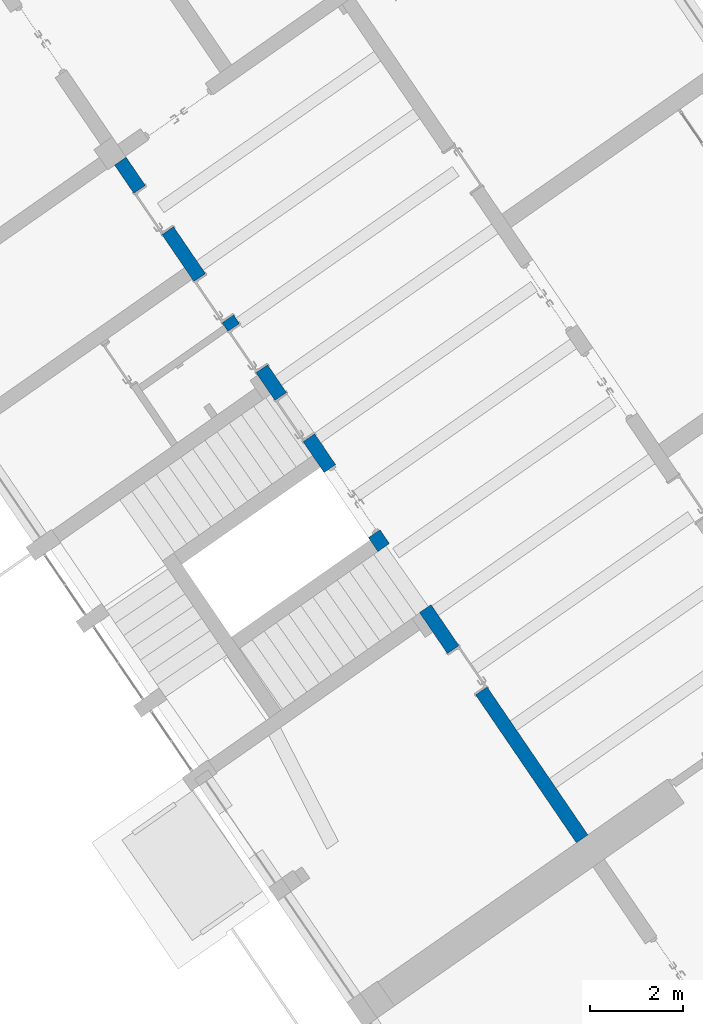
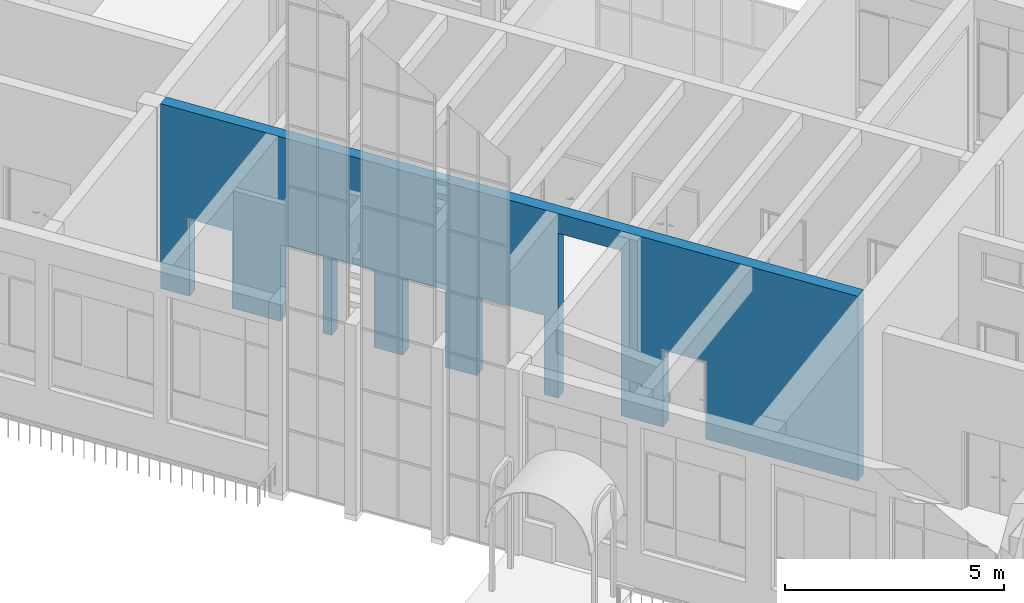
# One storey, part 123 of 157: 1 wall, 6 openings.
"""IFC2X3 building model written with IfcOpenShell, lengths in millimetres."""

from ifc_helpers import new_model, entity, si_unit, converted_unit, derived_unit, direction, frame, frame_2d, origin, place, context, subcontext, project, spatial, rectangle, extrude, faceted_brep, material, layer, layer_set, type_object, element, save


model = new_model("IFC2X3")

# Units and contexts
model_context = context("Model", 3, precision=0.01, world=origin(), true_north=direction((6.123031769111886e-17, 1.0)))
body_context = subcontext(model_context, "Body", "Model", "MODEL_VIEW")
ifc_project = project(units=[si_unit("LENGTHUNIT", "METRE", prefix="MILLI"), si_unit("AREAUNIT", "SQUARE_METRE"), si_unit("VOLUMEUNIT", "CUBIC_METRE"), converted_unit("PLANEANGLEUNIT", "DEGREE", entity("IfcRatioMeasure", 0.017453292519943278), si_unit("PLANEANGLEUNIT", "RADIAN"), dimensions=[0, 0, 0, 0, 0, 0, 0]), si_unit("MASSUNIT", "GRAM", prefix="KILO"), derived_unit("MASSDENSITYUNIT", [(si_unit("MASSUNIT", "GRAM", prefix="KILO"), 1), (si_unit("LENGTHUNIT", "METRE"), -3)]), derived_unit("MOMENTOFINERTIAUNIT", [(si_unit("LENGTHUNIT", "METRE"), 4)]), si_unit("TIMEUNIT", "SECOND"), si_unit("FREQUENCYUNIT", "HERTZ"), si_unit("THERMODYNAMICTEMPERATUREUNIT", "DEGREE_CELSIUS"), derived_unit("THERMALTRANSMITTANCEUNIT", [(si_unit("MASSUNIT", "GRAM", prefix="KILO"), 1), (si_unit("THERMODYNAMICTEMPERATUREUNIT", "KELVIN"), -1), (si_unit("TIMEUNIT", "SECOND"), -3)]), derived_unit("THERMALCONDUCTANCEUNIT", [(si_unit("MASSUNIT", "GRAM", prefix="KILO"), 1), (si_unit("LENGTHUNIT", "METRE"), 1), (si_unit("THERMODYNAMICTEMPERATUREUNIT", "KELVIN"), -1), (si_unit("TIMEUNIT", "SECOND"), -3)]), derived_unit("VOLUMETRICFLOWRATEUNIT", [(si_unit("LENGTHUNIT", "METRE"), 3), (si_unit("TIMEUNIT", "SECOND"), -1)]), derived_unit("MASSFLOWRATEUNIT", [(si_unit("MASSUNIT", "GRAM", prefix="KILO"), 1), (si_unit("TIMEUNIT", "SECOND"), -1)]), derived_unit("ROTATIONALFREQUENCYUNIT", [(si_unit("TIMEUNIT", "SECOND"), -1)]), si_unit("ELECTRICCURRENTUNIT", "AMPERE"), si_unit("ELECTRICVOLTAGEUNIT", "VOLT"), si_unit("POWERUNIT", "WATT"), converted_unit("FORCEUNIT", "KIP", entity("IfcRatioMeasure", 2.088543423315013e-05), si_unit("FORCEUNIT", "NEWTON"), dimensions=[1, 1, -2, 0, 0, 0, 0]), si_unit("ILLUMINANCEUNIT", "LUX"), si_unit("LUMINOUSFLUXUNIT", "LUMEN"), si_unit("LUMINOUSINTENSITYUNIT", "CANDELA"), derived_unit("USERDEFINED", [(si_unit("MASSUNIT", "GRAM", prefix="KILO"), -1), (si_unit("LENGTHUNIT", "METRE"), -2), (si_unit("TIMEUNIT", "SECOND"), 3), (si_unit("LUMINOUSFLUXUNIT", "LUMEN"), 1)]), derived_unit("USERDEFINED", [(si_unit("MASSUNIT", "GRAM", prefix="KILO"), 1), (si_unit("LENGTHUNIT", "METRE"), 3), (si_unit("TIMEUNIT", "SECOND"), -3), (si_unit("ELECTRICCURRENTUNIT", "AMPERE"), -2)]), derived_unit("USERDEFINED", [(si_unit("LENGTHUNIT", "METRE"), 2), (si_unit("TIMEUNIT", "SECOND"), -2)]), derived_unit("SOUNDPOWERUNIT", [(si_unit("MASSUNIT", "GRAM", prefix="KILO"), 1), (si_unit("LENGTHUNIT", "METRE"), 2), (si_unit("TIMEUNIT", "SECOND"), -3)]), derived_unit("SOUNDPRESSUREUNIT", [(si_unit("MASSUNIT", "GRAM", prefix="KILO"), 1), (si_unit("LENGTHUNIT", "METRE"), -1), (si_unit("TIMEUNIT", "SECOND"), -2)]), derived_unit("LINEARVELOCITYUNIT", [(si_unit("LENGTHUNIT", "METRE"), 1), (si_unit("TIMEUNIT", "SECOND"), -1)]), si_unit("PRESSUREUNIT", "PASCAL"), derived_unit("USERDEFINED", [(si_unit("LENGTHUNIT", "METRE"), -2), (si_unit("MASSUNIT", "GRAM", prefix="KILO"), 1), (si_unit("TIMEUNIT", "SECOND"), -2)]), derived_unit("LINEARFORCEUNIT", [(si_unit("MASSUNIT", "GRAM", prefix="KILO"), 1), (si_unit("LENGTHUNIT", "METRE"), 1), (si_unit("TIMEUNIT", "SECOND"), -2), (si_unit("LENGTHUNIT", "METRE"), -1)]), derived_unit("PLANARFORCEUNIT", [(si_unit("MASSUNIT", "GRAM", prefix="KILO"), 1), (si_unit("LENGTHUNIT", "METRE"), 1), (si_unit("TIMEUNIT", "SECOND"), -2), (si_unit("LENGTHUNIT", "METRE"), -2)]), derived_unit("SPECIFICHEATCAPACITYUNIT", [(si_unit("LENGTHUNIT", "METRE"), 2), (si_unit("TIMEUNIT", "SECOND"), -2), (si_unit("THERMODYNAMICTEMPERATUREUNIT", "KELVIN"), -1)]), derived_unit("VAPORPERMEABILITYUNIT", [(si_unit("TIMEUNIT", "SECOND"), 1), (si_unit("LENGTHUNIT", "METRE"), -1)]), derived_unit("DYNAMICVISCOSITYUNIT", [(si_unit("MASSUNIT", "GRAM", prefix="KILO"), 1), (si_unit("LENGTHUNIT", "METRE"), -1), (si_unit("TIMEUNIT", "SECOND"), -1)]), derived_unit("THERMALEXPANSIONCOEFFICIENTUNIT", [(si_unit("THERMODYNAMICTEMPERATUREUNIT", "KELVIN"), -1)])], contexts=[model_context])

# Site, building, storey
site_placement = place(None, frame((0.0, 0.0, 0.0), z_axis=(0.0, 0.0, 1.0), x_axis=(0.8191520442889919, 0.5735764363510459, 0.0)))
site = spatial("IfcSite", under=ifc_project, at=site_placement, Name="Default", CompositionType="ELEMENT")
building_placement = place(site_placement, origin())
building = spatial("IfcBuilding", under=site, at=building_placement, CompositionType="ELEMENT")
storey_placement = place(building_placement, origin())
storey = spatial("IfcBuildingStorey", under=building, at=storey_placement, Name="1.EG +0.00", CompositionType="ELEMENT", Elevation=-4.331468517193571e-12)

# Wall, openings
ifc_material = material(Name="Analytical Wall Surface_CJC")
ifc_layer = layer(ifc_material, 300.0)
ifc_layer_set = layer_set([ifc_layer], Name="Basic Wall:Wand_Innen_30")
wall_type = type_object("IfcWallType", Name="Basic Wall:Wand_Innen_30", PredefinedType="STANDARD", material=ifc_layer_set)
wall_placement = place(storey_placement, frame((-217073.2566968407, 103849.44947620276, 0.0), z_axis=(0.0, 0.0, 1.0), x_axis=(0.01272958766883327, 0.9999189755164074, 0.0)))
wall = element("IfcWall", 1, at=wall_placement, inside=storey, type_object=wall_type, Name="Basic Wall:Wand_Innen_30", ObjectType="Basic Wall:Wand_Innen_30", context=body_context, shape_type="Brep", body=[
    faceted_brep([(3.81918574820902, -150.0, 5150.0), (3.81918574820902, -150.0, 0.0), (3858.0728575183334, -150.0, 0.0), (3858.0728575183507, -150.0, 2150.0), (4938.072857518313, -150.0, 2150.0), (4938.07285751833, -150.0, 0.0), (6004.905676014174, -150.0, 0.0), (6004.905676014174, -150.0, 4600.0), (7599.434616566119, -150.0, 4600.0), (7599.434616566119, -150.0, 0.0), (7958.072857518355, -150.0, 0.0), (7958.0728575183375, -150.0, 2200.0), (9658.07285751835, -150.0, 2200.0), (9658.07285751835, -150.0, 0.0), (10458.072857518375, -150.0, 0.0), (10458.072857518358, -150.0, 2150.0), (11538.072857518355, -150.0, 2150.0), (11538.072857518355, -150.0, 0.0), (12258.072857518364, -150.0, 0.0), (12258.072857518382, -150.0, 2150.0), (13338.072857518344, -150.0, 2150.0), (13338.072857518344, -150.0, 0.0), (13558.178197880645, -150.0, 0.0), (13558.178197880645, -150.0, 2150.0), (14638.178197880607, -150.0, 2150.0), (14638.178197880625, -150.0, 0.0), (15858.364569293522, -150.0, 0.0), (15858.364569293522, -150.0, 2150.0), (16938.364569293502, -150.0, 2150.0), (16938.36456929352, -150.0, 0.0), (17675.25100438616, -150.0, 0.0), (17675.25100438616, -150.0, 4500.0), (17675.25100438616, -150.0, 5150.0), (16475.032220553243, -150.0, 5150.0), (16225.011962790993, -150.0, 5150.0), (14974.910673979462, -150.0, 5150.0), (14724.890416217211, -150.0, 5150.0), (13474.789127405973, -150.0, 5150.0), (13224.768869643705, -150.0, 5150.0), (11974.789127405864, -150.0, 5150.0), (11724.768869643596, -150.0, 5150.0), (10474.66758083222, -150.0, 5150.0), (10224.64732306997, -150.0, 5150.0), (8974.546034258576, -150.0, 5150.0), (8724.525776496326, -150.0, 5150.0), (7474.4244876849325, -150.0, 5150.0), (7224.404229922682, -150.0, 5150.0), (5974.302941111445, -150.0, 5150.0), (5724.282683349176, -150.0, 5150.0), (4474.1813945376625, -150.0, 5150.0), (4224.161136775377, -150.0, 5150.0), (2974.059847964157, -150.0, 5150.0), (2724.0395902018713, -150.0, 5150.0), (1473.938301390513, -150.0, 5150.0), (1223.918043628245, -150.0, 5150.0), (0.0, 150.0, 0.0), (0.0, 150.0, 5150.0), (2670.216352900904, 150.0, 5150.0), (2970.240662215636, 150.0, 5150.0), (5495.445265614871, 150.0, 5150.0), (5995.485781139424, 150.0, 5150.0), (7595.615430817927, 150.0, 5150.0), (7895.639740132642, 150.0, 5150.0), (9795.793699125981, 150.0, 5150.0), (10095.818008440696, 150.0, 5150.0), (11695.947658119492, 150.0, 5150.0), (12195.988173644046, 150.0, 5150.0), (13346.081359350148, 150.0, 5150.0), (13496.093514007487, 150.0, 5150.0), (14696.19075126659, 150.0, 5150.0), (14996.215060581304, 150.0, 5150.0), (17671.43181863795, 150.0, 5150.0), (17671.43181863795, 150.0, 0.0), (16938.364569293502, 150.0, 0.0), (16938.36456929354, 150.0, 2150.0), (15858.364569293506, 150.0, 2150.0), (15858.364569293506, 150.0, 0.0), (14996.215060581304, 150.0, 0.0), (14696.19075126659, 150.0, 0.0), (14638.178197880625, 150.0, 0.0), (14638.178197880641, 150.0, 2150.0), (13558.178197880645, 150.0, 2150.0), (13558.178197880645, 150.0, 0.0), (13496.093514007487, 150.0, 0.0), (13346.081359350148, 150.0, 0.0), (13338.072857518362, 150.0, 0.0), (13338.072857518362, 150.0, 2150.0), (12258.072857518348, 150.0, 2150.0), (12258.072857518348, 150.0, 0.0), (12195.988173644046, 150.0, 0.0), (11695.947658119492, 150.0, 0.0), (11538.072857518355, 150.0, 0.0), (11538.072857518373, 150.0, 2150.0), (10458.072857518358, 150.0, 2150.0), (10458.07285751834, 150.0, 0.0), (10095.818008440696, 150.0, 0.0), (9795.793699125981, 150.0, 0.0), (9658.072857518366, 150.0, 0.0), (9658.0728575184, 150.0, 2200.0), (7958.072857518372, 150.0, 2200.0), (7958.072857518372, 150.0, 0.0), (7895.639740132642, 150.0, 0.0), (7595.615430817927, 150.0, 0.0), (7595.615430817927, 150.0, 4600.0), (6004.905676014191, 150.0, 4600.0), (6004.905676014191, 150.0, 0.0), (5995.485781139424, 150.0, 0.0), (5495.445265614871, 150.0, 0.0), (4938.07285751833, 150.0, 0.0), (4938.07285751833, 150.0, 2150.0), (3858.0728575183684, 150.0, 2150.0), (3858.0728575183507, 150.0, 0.0)], [[[0, 1, 2, 3, 4, 5, 6, 7, 8, 9, 10, 11, 12, 13, 14, 15, 16, 17, 18, 19, 20, 21, 22, 23, 24, 25, 26, 27, 28, 29, 30, 31, 32, 33, 34, 35, 36, 37, 38, 39, 40, 41, 42, 43, 44, 45, 46, 47, 48, 49, 50, 51, 52, 53, 54]], [[55, 56, 57, 58, 59, 60, 61, 62, 63, 64, 65, 66, 67, 68, 69, 70, 71, 72, 73, 74, 75, 76, 77, 78, 79, 80, 81, 82, 83, 84, 85, 86, 87, 88, 89, 90, 91, 92, 93, 94, 95, 96, 97, 98, 99, 100, 101, 102, 103, 104, 105, 106, 107, 108, 109, 110, 111]], [[1, 0, 56, 55]], [[32, 31, 30, 72, 71]], [[4, 109, 108, 5]], [[109, 4, 3, 110]], [[110, 3, 2, 111]], [[28, 74, 73, 29]], [[74, 28, 27, 75]], [[75, 27, 26, 76]], [[24, 80, 79, 25]], [[80, 24, 23, 81]], [[81, 23, 22, 82]], [[20, 86, 85, 21]], [[86, 20, 19, 87]], [[87, 19, 18, 88]], [[16, 92, 91, 17]], [[92, 16, 15, 93]], [[93, 15, 14, 94]], [[1, 55, 111, 2]], [[7, 6, 105, 104]], [[8, 7, 104, 103]], [[9, 102, 101, 100, 10]], [[0, 54, 53, 52, 51, 50, 49, 48, 47, 46, 45, 44, 43, 42, 41, 40, 39, 38, 37, 36, 35, 34, 33, 32, 71, 70, 69, 68, 67, 66, 65, 64, 63, 62, 61, 60, 59, 58, 57, 56]], [[9, 8, 103, 102]], [[99, 11, 10, 100]], [[11, 99, 98, 12]], [[12, 98, 97, 13]], [[94, 14, 13, 97, 96, 95]], [[88, 18, 17, 91, 90, 89]], [[82, 22, 21, 85, 84, 83]], [[76, 26, 25, 79, 78, 77]], [[72, 30, 29, 73]], [[105, 6, 5, 108, 107, 106]]]),
])
opening_1_placement = place(wall_placement, frame((4938.07285751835, 150.0, 0.0)))
element("IfcOpeningElement", 2, at=opening_1_placement, cuts=wall, Name="Doors_IntSgl:100x210:1", ObjectType="Opening", context=body_context, shape_type="SweptSolid", body=[
    extrude(rectangle(XDim=2150.000000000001, YDim=1079.9999999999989, at=frame_2d((1075.0000000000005, 539.9999999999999), x_axis=(1.0, 0.0))), frame((0.0, 0.0, 0.0), z_axis=(0.0, -1.0, 0.0), x_axis=(0.0, 0.0, 1.0)), (0.0, 0.0, 1.0), 299.9999999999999),
])
opening_2_placement = place(wall_placement, frame((15858.364569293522, -150.0, 0.0)))
element("IfcOpeningElement", 3, at=opening_2_placement, cuts=wall, Name="Doors_IntSgl:100x210:1", ObjectType="Opening", context=body_context, shape_type="SweptSolid", body=[
    extrude(rectangle(XDim=2150.000000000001, YDim=1079.9999999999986, at=frame_2d((1075.0000000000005, 539.9999999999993), x_axis=(1.0, 0.0))), frame((0.0, 0.0, 0.0), z_axis=(0.0, 1.0, 0.0), x_axis=(0.0, 0.0, 1.0)), (0.0, 0.0, 1.0), 299.9999999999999),
])
opening_3_placement = place(wall_placement, frame((13558.178197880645, -150.0, 0.0)))
element("IfcOpeningElement", 4, at=opening_3_placement, cuts=wall, Name="Doors_IntSgl:100x210:1", ObjectType="Opening", context=body_context, shape_type="SweptSolid", body=[
    extrude(rectangle(XDim=2150.000000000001, YDim=1079.9999999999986, at=frame_2d((1075.0000000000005, 539.9999999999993), x_axis=(1.0, 0.0))), frame((0.0, 0.0, 0.0), z_axis=(0.0, 1.0, 0.0), x_axis=(0.0, 0.0, 1.0)), (0.0, 0.0, 1.0), 299.9999999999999),
])
opening_4_placement = place(wall_placement, frame((12258.072857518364, -150.0, 0.0)))
element("IfcOpeningElement", 5, at=opening_4_placement, cuts=wall, Name="Doors_IntSgl:100x210:1", ObjectType="Opening", context=body_context, shape_type="SweptSolid", body=[
    extrude(rectangle(XDim=2150.000000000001, YDim=1079.9999999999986, at=frame_2d((1075.0000000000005, 539.9999999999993), x_axis=(1.0, 0.0))), frame((0.0, 0.0, 0.0), z_axis=(0.0, 1.0, 0.0), x_axis=(0.0, 0.0, 1.0)), (0.0, 0.0, 1.0), 299.9999999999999),
])
opening_5_placement = place(wall_placement, frame((10458.072857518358, -150.0, 0.0)))
element("IfcOpeningElement", 6, at=opening_5_placement, cuts=wall, Name="Doors_IntSgl:100x210:1", ObjectType="Opening", context=body_context, shape_type="SweptSolid", body=[
    extrude(rectangle(XDim=2150.000000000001, YDim=1079.9999999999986, at=frame_2d((1075.0000000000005, 539.9999999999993), x_axis=(1.0, 0.0))), frame((0.0, 0.0, 0.0), z_axis=(0.0, 1.0, 0.0), x_axis=(0.0, 0.0, 1.0)), (0.0, 0.0, 1.0), 299.9999999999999),
])
opening_6_placement = place(wall_placement, frame((9658.072857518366, 150.0, 0.0)))
element("IfcOpeningElement", 7, at=opening_6_placement, cuts=wall, Name="M_Door-Passage-Double-Flush:160x210:1", ObjectType="Opening", context=body_context, shape_type="SweptSolid", body=[
    extrude(rectangle(XDim=2200.0, YDim=1699.9999999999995, at=frame_2d((1100.0, 849.9999999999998), x_axis=(1.0, 0.0))), frame((0.0, 0.0, 0.0), z_axis=(0.0, -1.0, 0.0), x_axis=(0.0, 0.0, 1.0)), (0.0, 0.0, 1.0), 299.9999999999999),
])

save(model, "model.ifc")
